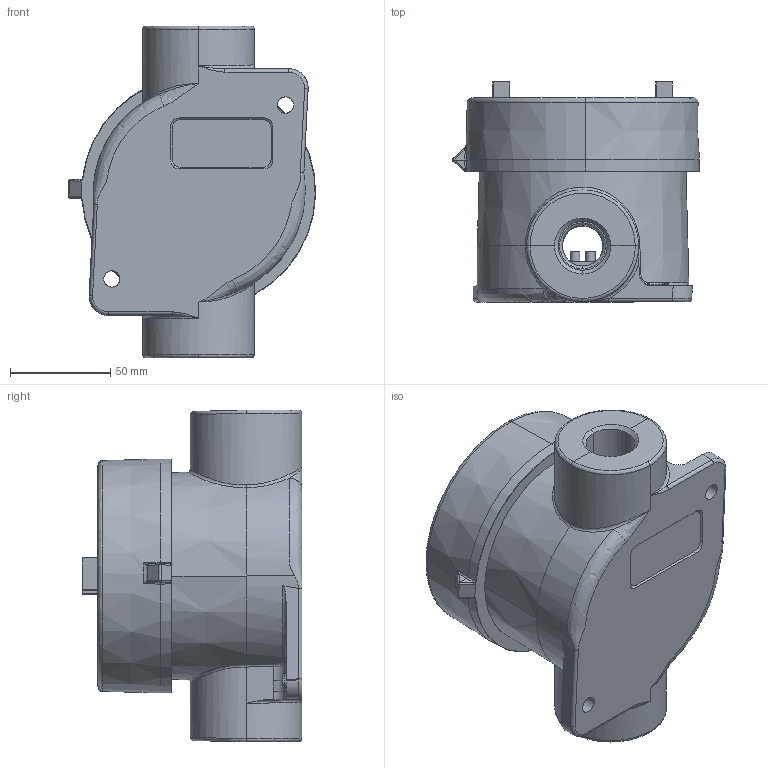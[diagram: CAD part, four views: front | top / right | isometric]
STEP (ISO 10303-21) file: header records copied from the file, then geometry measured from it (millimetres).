
FILE_DESCRIPTION (( 'STEP AP214' ), '1' );
FILE_NAME ('ATEX-EPJ-2-TB.6.STEP', '2023-02-21T19:21:01', ( '' ), ( '' ), 'SwSTEP 2.0', 'SolidWorks 2020', '' );
FILE_SCHEMA (( 'AUTOMOTIVE_DESIGN' ));
Length unit declared in the file: inch
Products named in the file (5): 89-612 12-CKT Barrier Strip; ATEX-EPJ-2-TB.6; ATEX-EPJ-2; 21147-override; 21389
Assembly tree (4 placements, depth 3):
  ATEX-EPJ-2-TB.6
    ATEX-EPJ-2
      21389
      21147-override
    89-612 12-CKT Barrier Strip
Bounding box: 122.99 x 109.47 x 165.15 mm (x, y, z)
Volume: 626730.6 mm3; surface area: 137624.7 mm2
Topology: 3 solids, 3 shells, 585 faces, 1451 edges, 891 vertices
Faces by surface type: plane 223, cylinder 186, bspline 145, cone 31
Entity records: 32060 total; most frequent: CARTESIAN_POINT 14741, ORIENTED_EDGE 2872, DIRECTION 2493, EDGE_CURVE 1436, AXIS2_PLACEMENT_3D 930, VERTEX_POINT 891, LINE 633, VECTOR 633
